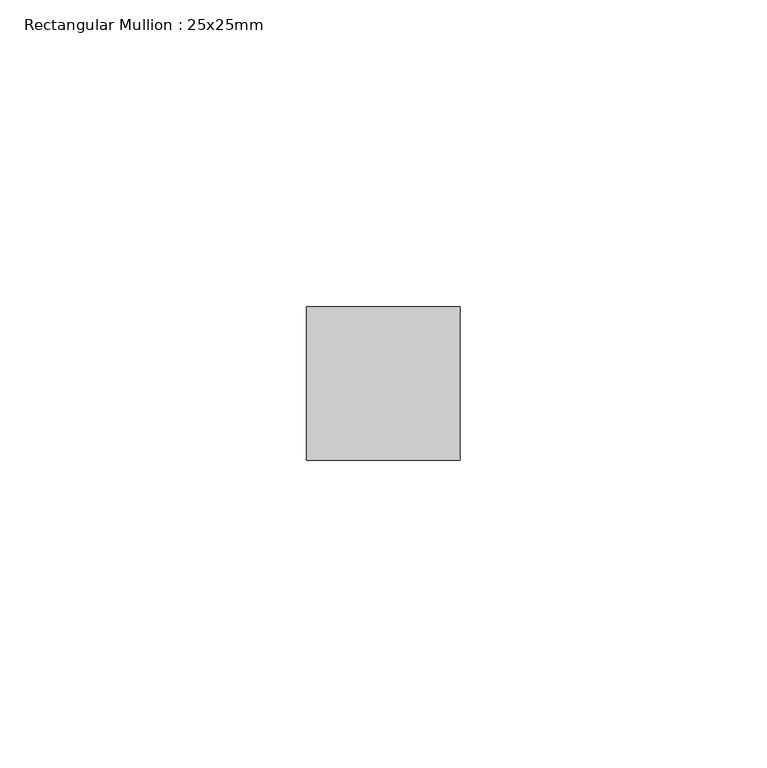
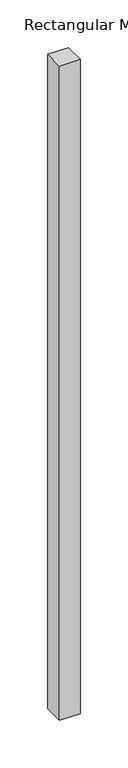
"""IFC4 building model written with IfcOpenShell, lengths in millimetres: member geometry, Rectangular Mullion : 25x25mm."""

from ifc_helpers import new_model, si_unit, frame, origin, place, context, project, spatial, polyline, outline, extrude, source, transform, mapped, element, save


def rectangular_mullion_25x25mm_9b161682(model_context):
    return source(origin(), model_context, "Body", "SweptSolid", [
        extrude(outline(polyline([(0.0, 0.5), (0.0, -24.5), (-25.0, -24.5), (-25.0, 0.5), (0.0, 0.5)])), frame((0.0, 0.0, -839.2857142), z_axis=(0.0, 0.0, 1.0), x_axis=(1.0, 0.0, 0.0)), (0.0, 0.0, 1.0), 839.2857142),
    ])


if __name__ == "__main__":
    model = new_model("IFC4")
    model_context = context("Model", 3, world=origin())
    ifc_project = project(units=[si_unit("LENGTHUNIT", "METRE", prefix="MILLI")], contexts=[model_context])
    site = spatial("IfcSite", under=ifc_project)
    building = spatial("IfcBuilding", under=site)
    placement = place(None, origin())
    rectangular_mullion_25x25mm_shape = rectangular_mullion_25x25mm_9b161682(model_context)
    element("IfcMember", 1, ObjectType="Rectangular Mullion : 25x25mm", at=placement, inside=building, context=model_context, shape_type="MappedRepresentation", body=[
        mapped(rectangular_mullion_25x25mm_shape, transform((0.0, 0.0, 0.0), x_axis=(1.0, 0.0, 0.0), y_axis=(0.0, 1.0, 0.0), z_axis=(0.0, 0.0, 1.0))),
    ])
    save(model, "model.ifc")
